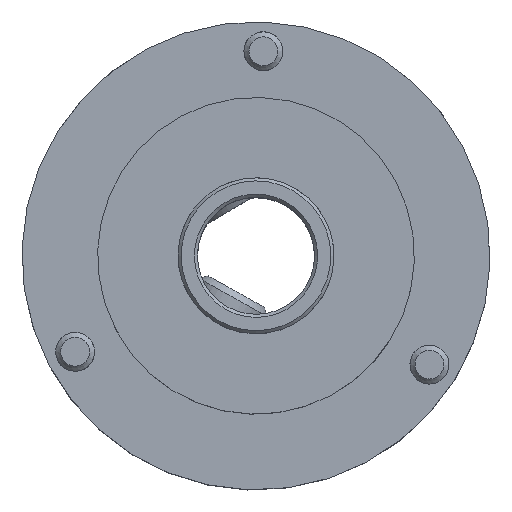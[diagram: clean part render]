
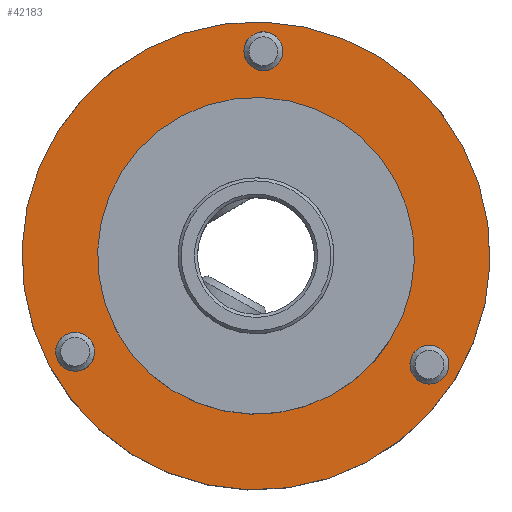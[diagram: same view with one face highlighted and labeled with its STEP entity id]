
A CAD part, top view. The second image highlights one B-rep face of the part: STEP entity #42183.
In plain terms, the highlighted planar face has unit normal (0, 0, 1) as drawn and (0, -1, 0) by its records, which use the part's own axes.
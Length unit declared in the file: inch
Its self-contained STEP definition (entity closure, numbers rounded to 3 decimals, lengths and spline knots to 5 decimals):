
#42027=CARTESIAN_POINT('',(0.63061,-0.0055,0.328));
#42028=VERTEX_POINT('',#42027);
#42029=CARTESIAN_POINT('',(0.56811,-0.0055,0.328));
#42030=DIRECTION('',(0.0,1.0,0.0));
#42031=DIRECTION('',(-1.0,0.0,0.0));
#42032=AXIS2_PLACEMENT_3D('',#42029,#42030,#42031);
#42033=CIRCLE('',#42032,0.0625);
#42034=EDGE_CURVE('',#42028,#42028,#42033,.T.);
#42055=CARTESIAN_POINT('',(-0.50561,-0.0055,0.328));
#42056=VERTEX_POINT('',#42055);
#42057=CARTESIAN_POINT('',(-0.56811,-0.0055,0.328));
#42058=DIRECTION('',(0.0,1.0,0.0));
#42059=DIRECTION('',(-1.0,0.0,0.0));
#42060=AXIS2_PLACEMENT_3D('',#42057,#42058,#42059);
#42061=CIRCLE('',#42060,0.0625);
#42062=EDGE_CURVE('',#42056,#42056,#42061,.T.);
#42083=CARTESIAN_POINT('',(0.0625,-0.0055,-0.656));
#42084=VERTEX_POINT('',#42083);
#42085=CARTESIAN_POINT('',(0.,-0.0055,-0.656));
#42086=DIRECTION('',(0.0,1.0,0.0));
#42087=DIRECTION('',(-1.0,0.0,0.0));
#42088=AXIS2_PLACEMENT_3D('',#42085,#42086,#42087);
#42089=CIRCLE('',#42088,0.0625);
#42090=EDGE_CURVE('',#42084,#42084,#42089,.T.);
#42140=CARTESIAN_POINT('',(0.75,-0.0055,0.));
#42141=VERTEX_POINT('',#42140);
#42142=CARTESIAN_POINT('',(0.,-0.0055,0.));
#42143=DIRECTION('',(0.0,-1.0,0.0));
#42144=DIRECTION('',(1.0,0.0,0.0));
#42145=AXIS2_PLACEMENT_3D('',#42142,#42143,#42144);
#42146=CIRCLE('',#42145,0.75);
#42147=EDGE_CURVE('',#42141,#42141,#42146,.T.);
#42155=CARTESIAN_POINT('',(0.62875,-0.0055,0.));
#42156=DIRECTION('',(0.0,-1.0,0.0));
#42157=DIRECTION('',(0.0,0.0,-1.0));
#42158=AXIS2_PLACEMENT_3D('',#42155,#42156,#42157);
#42159=PLANE('',#42158);
#42160=ORIENTED_EDGE('',*,*,#42147,.T.);
#42161=EDGE_LOOP('',(#42160));
#42162=FACE_OUTER_BOUND('',#42161,.T.);
#42163=ORIENTED_EDGE('',*,*,#42034,.T.);
#42164=EDGE_LOOP('',(#42163));
#42165=FACE_BOUND('',#42164,.T.);
#42166=ORIENTED_EDGE('',*,*,#42062,.T.);
#42167=EDGE_LOOP('',(#42166));
#42168=FACE_BOUND('',#42167,.T.);
#42169=ORIENTED_EDGE('',*,*,#42090,.T.);
#42170=EDGE_LOOP('',(#42169));
#42171=FACE_BOUND('',#42170,.T.);
#42172=CARTESIAN_POINT('',(0.5075,-0.0055,0.));
#42173=VERTEX_POINT('',#42172);
#42174=CARTESIAN_POINT('',(0.,-0.0055,0.));
#42175=DIRECTION('',(0.0,-1.0,0.0));
#42176=DIRECTION('',(1.0,0.0,0.0));
#42177=AXIS2_PLACEMENT_3D('',#42174,#42175,#42176);
#42178=CIRCLE('',#42177,0.5075);
#42179=EDGE_CURVE('',#42173,#42173,#42178,.T.);
#42180=ORIENTED_EDGE('',*,*,#42179,.F.);
#42181=EDGE_LOOP('',(#42180));
#42182=FACE_BOUND('',#42181,.T.);
#42183=ADVANCED_FACE('',(#42162,#42165,#42168,#42171,#42182),#42159,.T.);
